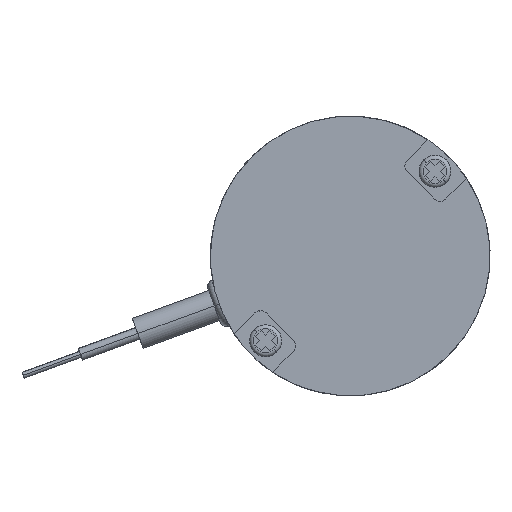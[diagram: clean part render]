
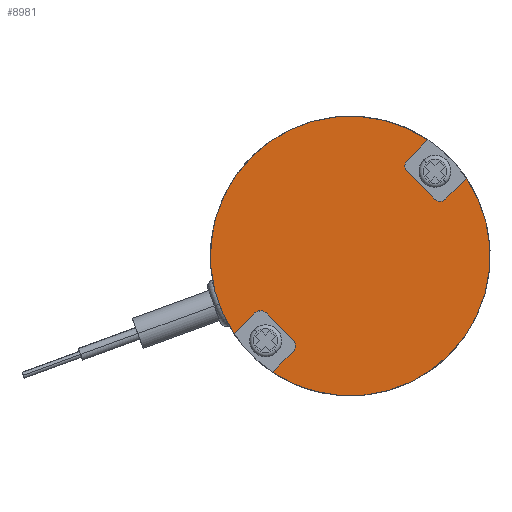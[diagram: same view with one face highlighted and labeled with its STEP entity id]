
A CAD part, left-side view. The second image highlights one B-rep face of the part: STEP entity #8981.
In plain terms, the highlighted planar face has unit normal (-1, 0, 0).
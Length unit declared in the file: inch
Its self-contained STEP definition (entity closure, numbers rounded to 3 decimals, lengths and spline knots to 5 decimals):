
#31 = VERTEX_POINT ( 'NONE', #6541 ) ;
#77 = LINE ( 'NONE', #3621, #2537 ) ;
#236 = VECTOR ( 'NONE', #6639, 39.37008 ) ;
#328 = CARTESIAN_POINT ( 'NONE',  ( 0., -0.41382, 0.2802 ) ) ;
#442 = CARTESIAN_POINT ( 'NONE',  ( 0., 0.4695, -0.2802 ) ) ;
#600 = CARTESIAN_POINT ( 'NONE',  ( 0., -0.48621, -0.48621 ) ) ;
#633 = AXIS2_PLACEMENT_3D ( 'NONE', #6064, #6770, #6800 ) ;
#662 = CARTESIAN_POINT ( 'NONE',  ( 0., 0., 0. ) ) ;
#697 = CIRCLE ( 'NONE', #4130, 0.03937 ) ;
#989 = AXIS2_PLACEMENT_3D ( 'NONE', #6787, #7589, #3243 ) ;
#1044 = LINE ( 'NONE', #2579, #9205 ) ;
#1057 = EDGE_CURVE ( 'NONE', #4191, #5405, #2948, .T. ) ;
#1189 = DIRECTION ( 'NONE',  ( 1., 0., 0. ) ) ;
#1299 = CIRCLE ( 'NONE', #3151, 0.6876 ) ;
#1364 = VERTEX_POINT ( 'NONE', #1849 ) ;
#1604 = EDGE_CURVE ( 'NONE', #9501, #8884, #9164, .T. ) ;
#1623 = DIRECTION ( 'NONE',  ( 0., 0.707, 0.707 ) ) ;
#1849 = CARTESIAN_POINT ( 'NONE',  ( 0., -0.2802, 0.4695 ) ) ;
#2088 = DIRECTION ( 'NONE',  ( 0., 0.707, 0.707 ) ) ;
#2181 = EDGE_LOOP ( 'NONE', ( #3434, #3679, #7079, #8271, #7568, #3903, #8385, #2203, #4918, #3784, #7858, #3261, #2617, #5890 ) ) ;
#2193 = DIRECTION ( 'NONE',  ( 0., -0.707, -0.707 ) ) ;
#2203 = ORIENTED_EDGE ( 'NONE', *, *, #3712, .F. ) ;
#2262 = DIRECTION ( 'NONE',  ( 0., -0.707, -0.707 ) ) ;
#2485 = CIRCLE ( 'NONE', #4555, 0.03937 ) ;
#2537 = VECTOR ( 'NONE', #2262, 39.37008 ) ;
#2579 = CARTESIAN_POINT ( 'NONE',  ( 0., -0.2802, 0.4695 ) ) ;
#2617 = ORIENTED_EDGE ( 'NONE', *, *, #4924, .F. ) ;
#2678 = EDGE_CURVE ( 'NONE', #5405, #8630, #2485, .T. ) ;
#2711 = VERTEX_POINT ( 'NONE', #3585 ) ;
#2948 = LINE ( 'NONE', #7990, #4429 ) ;
#3030 = DIRECTION ( 'NONE',  ( 0., -0.707, -0.707 ) ) ;
#3151 = AXIS2_PLACEMENT_3D ( 'NONE', #3569, #1189, #8537 ) ;
#3165 = CARTESIAN_POINT ( 'NONE',  ( 0., -0.4695, 0.2802 ) ) ;
#3243 = DIRECTION ( 'NONE',  ( 0., -0.707, -0.707 ) ) ;
#3256 = CARTESIAN_POINT ( 'NONE',  ( 0., 0.38225, -0.57156 ) ) ;
#3261 = ORIENTED_EDGE ( 'NONE', *, *, #8430, .F. ) ;
#3358 = CARTESIAN_POINT ( 'NONE',  ( 0., -0.57156, 0.38225 ) ) ;
#3384 = LINE ( 'NONE', #7511, #8987 ) ;
#3388 = CARTESIAN_POINT ( 'NONE',  ( 0., -0.4695, 0.2802 ) ) ;
#3396 = EDGE_CURVE ( 'NONE', #8630, #5446, #3384, .T. ) ;
#3434 = ORIENTED_EDGE ( 'NONE', *, *, #3720, .F. ) ;
#3524 = CIRCLE ( 'NONE', #989, 0.6876 ) ;
#3569 = CARTESIAN_POINT ( 'NONE',  ( 0., 0., 0. ) ) ;
#3585 = CARTESIAN_POINT ( 'NONE',  ( 0., -0.2802, 0.41382 ) ) ;
#3608 = EDGE_CURVE ( 'NONE', #4581, #9501, #1299, .T. ) ;
#3621 = CARTESIAN_POINT ( 'NONE',  ( 0., -0.2802, 0.41382 ) ) ;
#3623 = DIRECTION ( 'NONE',  ( -1., 0., 0. ) ) ;
#3679 = ORIENTED_EDGE ( 'NONE', *, *, #3938, .F. ) ;
#3712 = EDGE_CURVE ( 'NONE', #31, #4191, #697, .T. ) ;
#3720 = EDGE_CURVE ( 'NONE', #1364, #2711, #5691, .T. ) ;
#3784 = ORIENTED_EDGE ( 'NONE', *, *, #1604, .F. ) ;
#3903 = ORIENTED_EDGE ( 'NONE', *, *, #2678, .F. ) ;
#3938 = EDGE_CURVE ( 'NONE', #6532, #1364, #1044, .T. ) ;
#4130 = AXIS2_PLACEMENT_3D ( 'NONE', #8716, #3623, #4325 ) ;
#4164 = DIRECTION ( 'NONE',  ( 0., 0.707, 0.707 ) ) ;
#4191 = VERTEX_POINT ( 'NONE', #7058 ) ;
#4245 = PLANE ( 'NONE',  #7827 ) ;
#4325 = DIRECTION ( 'NONE',  ( 0., -0.707, -0.707 ) ) ;
#4349 = EDGE_CURVE ( 'NONE', #2711, #6900, #77, .T. ) ;
#4395 = DIRECTION ( 'NONE',  ( -1., 0., 0. ) ) ;
#4417 = DIRECTION ( 'NONE',  ( 0., -0.707, -0.707 ) ) ;
#4429 = VECTOR ( 'NONE', #2088, 39.37008 ) ;
#4435 = AXIS2_PLACEMENT_3D ( 'NONE', #6719, #8907, #1623 ) ;
#4555 = AXIS2_PLACEMENT_3D ( 'NONE', #7715, #8454, #4164 ) ;
#4581 = VERTEX_POINT ( 'NONE', #3358 ) ;
#4630 = DIRECTION ( 'NONE',  ( 0., 0.707, -0.707 ) ) ;
#4807 = CIRCLE ( 'NONE', #4435, 0.03937 ) ;
#4918 = ORIENTED_EDGE ( 'NONE', *, *, #7401, .F. ) ;
#4924 = EDGE_CURVE ( 'NONE', #6900, #5036, #4807, .T. ) ;
#5036 = VERTEX_POINT ( 'NONE', #3165 ) ;
#5093 = CARTESIAN_POINT ( 'NONE',  ( 0., 0.2802, -0.4695 ) ) ;
#5224 = LINE ( 'NONE', #5093, #236 ) ;
#5405 = VERTEX_POINT ( 'NONE', #9148 ) ;
#5446 = VERTEX_POINT ( 'NONE', #6344 ) ;
#5480 = LINE ( 'NONE', #3388, #8301 ) ;
#5542 = VERTEX_POINT ( 'NONE', #8130 ) ;
#5548 = DIRECTION ( 'NONE',  ( 0., 0.707, -0.707 ) ) ;
#5691 = CIRCLE ( 'NONE', #6087, 0.03937 ) ;
#5890 = ORIENTED_EDGE ( 'NONE', *, *, #4349, .F. ) ;
#6064 = CARTESIAN_POINT ( 'NONE',  ( 0., 0., 0. ) ) ;
#6087 = AXIS2_PLACEMENT_3D ( 'NONE', #8027, #4395, #4417 ) ;
#6229 = CIRCLE ( 'NONE', #7818, 0.6876 ) ;
#6344 = CARTESIAN_POINT ( 'NONE',  ( 0., 0.57156, -0.38225 ) ) ;
#6532 = VERTEX_POINT ( 'NONE', #7816 ) ;
#6541 = CARTESIAN_POINT ( 'NONE',  ( 0., 0.2802, -0.4695 ) ) ;
#6639 = DIRECTION ( 'NONE',  ( 0., -0.707, 0.707 ) ) ;
#6719 = CARTESIAN_POINT ( 'NONE',  ( 0., -0.44166, 0.30804 ) ) ;
#6770 = DIRECTION ( 'NONE',  ( 1., 0., 0. ) ) ;
#6787 = CARTESIAN_POINT ( 'NONE',  ( 0., 0., 0. ) ) ;
#6800 = DIRECTION ( 'NONE',  ( 0., -0.707, -0.707 ) ) ;
#6900 = VERTEX_POINT ( 'NONE', #328 ) ;
#7058 = CARTESIAN_POINT ( 'NONE',  ( 0., 0.2802, -0.41382 ) ) ;
#7079 = ORIENTED_EDGE ( 'NONE', *, *, #7385, .F. ) ;
#7229 = CARTESIAN_POINT ( 'NONE',  ( 0., 0., 0. ) ) ;
#7385 = EDGE_CURVE ( 'NONE', #5542, #6532, #6229, .T. ) ;
#7401 = EDGE_CURVE ( 'NONE', #8884, #31, #5224, .T. ) ;
#7511 = CARTESIAN_POINT ( 'NONE',  ( 0., 0.4695, -0.2802 ) ) ;
#7568 = ORIENTED_EDGE ( 'NONE', *, *, #3396, .F. ) ;
#7589 = DIRECTION ( 'NONE',  ( 1., 0., 0. ) ) ;
#7715 = CARTESIAN_POINT ( 'NONE',  ( 0., 0.44166, -0.30804 ) ) ;
#7793 = FACE_OUTER_BOUND ( 'NONE', #2181, .T. ) ;
#7816 = CARTESIAN_POINT ( 'NONE',  ( 0., -0.38225, 0.57156 ) ) ;
#7818 = AXIS2_PLACEMENT_3D ( 'NONE', #662, #8043, #2193 ) ;
#7827 = AXIS2_PLACEMENT_3D ( 'NONE', #7229, #7911, #3030 ) ;
#7858 = ORIENTED_EDGE ( 'NONE', *, *, #3608, .F. ) ;
#7911 = DIRECTION ( 'NONE',  ( 1., 0., 0. ) ) ;
#7990 = CARTESIAN_POINT ( 'NONE',  ( 0., 0.41382, -0.2802 ) ) ;
#8027 = CARTESIAN_POINT ( 'NONE',  ( 0., -0.30804, 0.44166 ) ) ;
#8043 = DIRECTION ( 'NONE',  ( 1., 0., 0. ) ) ;
#8130 = CARTESIAN_POINT ( 'NONE',  ( 0., 0.48621, 0.48621 ) ) ;
#8271 = ORIENTED_EDGE ( 'NONE', *, *, #8296, .F. ) ;
#8296 = EDGE_CURVE ( 'NONE', #5446, #5542, #3524, .T. ) ;
#8301 = VECTOR ( 'NONE', #8496, 39.37008 ) ;
#8385 = ORIENTED_EDGE ( 'NONE', *, *, #1057, .F. ) ;
#8430 = EDGE_CURVE ( 'NONE', #5036, #4581, #5480, .T. ) ;
#8454 = DIRECTION ( 'NONE',  ( -1., 0., 0. ) ) ;
#8496 = DIRECTION ( 'NONE',  ( 0., -0.707, 0.707 ) ) ;
#8537 = DIRECTION ( 'NONE',  ( 0., -0.707, -0.707 ) ) ;
#8630 = VERTEX_POINT ( 'NONE', #442 ) ;
#8716 = CARTESIAN_POINT ( 'NONE',  ( 0., 0.30804, -0.44166 ) ) ;
#8884 = VERTEX_POINT ( 'NONE', #3256 ) ;
#8907 = DIRECTION ( 'NONE',  ( -1., 0., 0. ) ) ;
#8981 = ADVANCED_FACE ( 'NONE', ( #7793 ), #4245, .F. ) ;
#8987 = VECTOR ( 'NONE', #4630, 39.37008 ) ;
#9148 = CARTESIAN_POINT ( 'NONE',  ( 0., 0.41382, -0.2802 ) ) ;
#9164 = CIRCLE ( 'NONE', #633, 0.6876 ) ;
#9205 = VECTOR ( 'NONE', #5548, 39.37008 ) ;
#9501 = VERTEX_POINT ( 'NONE', #600 ) ;
